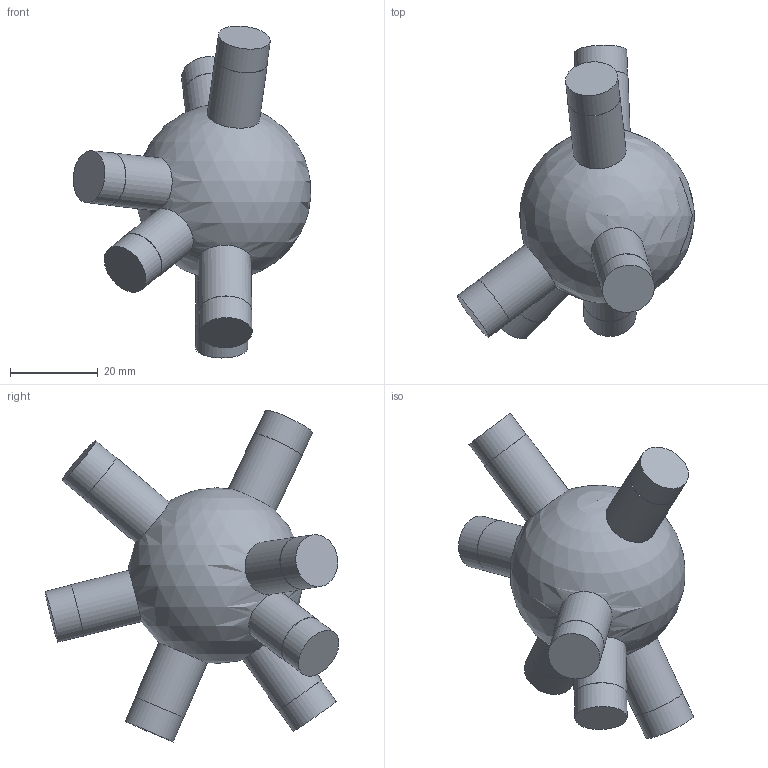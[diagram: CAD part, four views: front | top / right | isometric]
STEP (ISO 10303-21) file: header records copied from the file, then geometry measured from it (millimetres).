
FILE_DESCRIPTION(('Open CASCADE Model'),'2;1');
FILE_NAME('Open CASCADE Shape Model','2026-10-21T12:47:57',('Author'),( 'Open CASCADE'),'Open CASCADE STEP processor 7.9','Open CASCADE 7.9' ,'Unknown');
FILE_SCHEMA(('AUTOMOTIVE_DESIGN { 1 0 10303 214 1 1 1 1 }'));
Length unit declared in the file: millimetre
Products named in the file (1): Open CASCADE STEP translator 7.9 137
Bounding box: 54.05 x 66.82 x 75.54 mm (x, y, z)
Volume: 48664.5 mm3; surface area: 10194.9 mm2
Topology: 1 solids, 1 shells, 29 faces, 45 edges, 30 vertices
Faces by surface type: cylinder 14, plane 14, sphere 1
Full cylindrical faces by diameter (mm): 11.9 x7, 12 x7
Entity records: 1729 total; most frequent: CARTESIAN_POINT 724, DIRECTION 207, ORIENTED_EDGE 84, PCURVE 84, DEFINITIONAL_REPRESENTATION 84, LINE 70, VECTOR 70, AXIS2_PLACEMENT_3D 58
